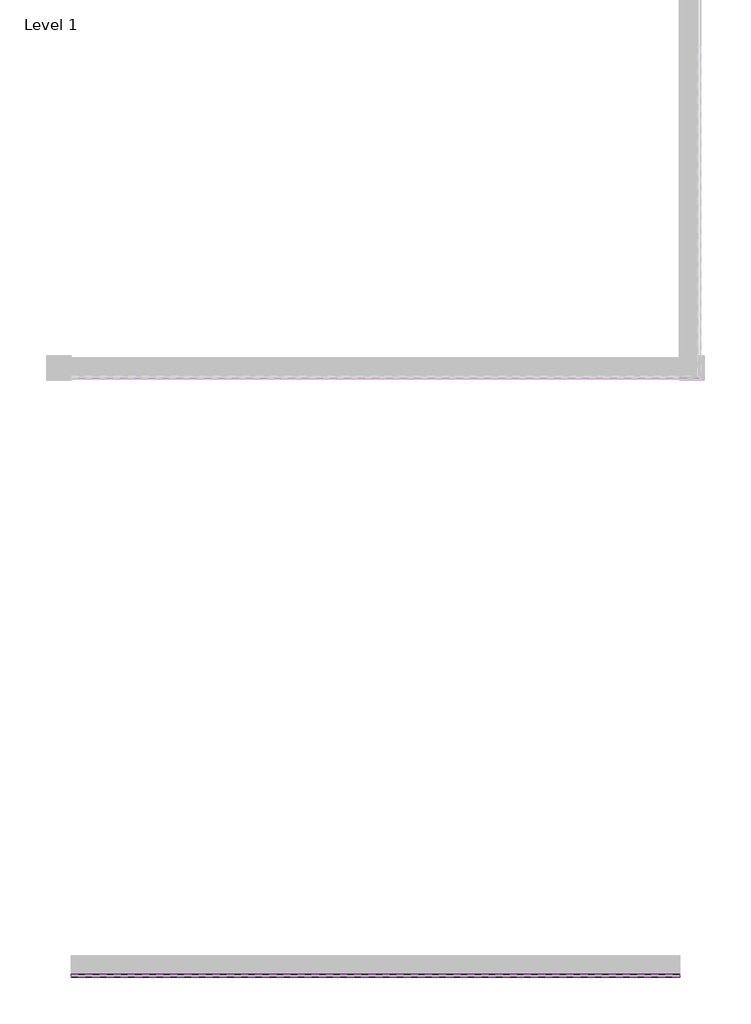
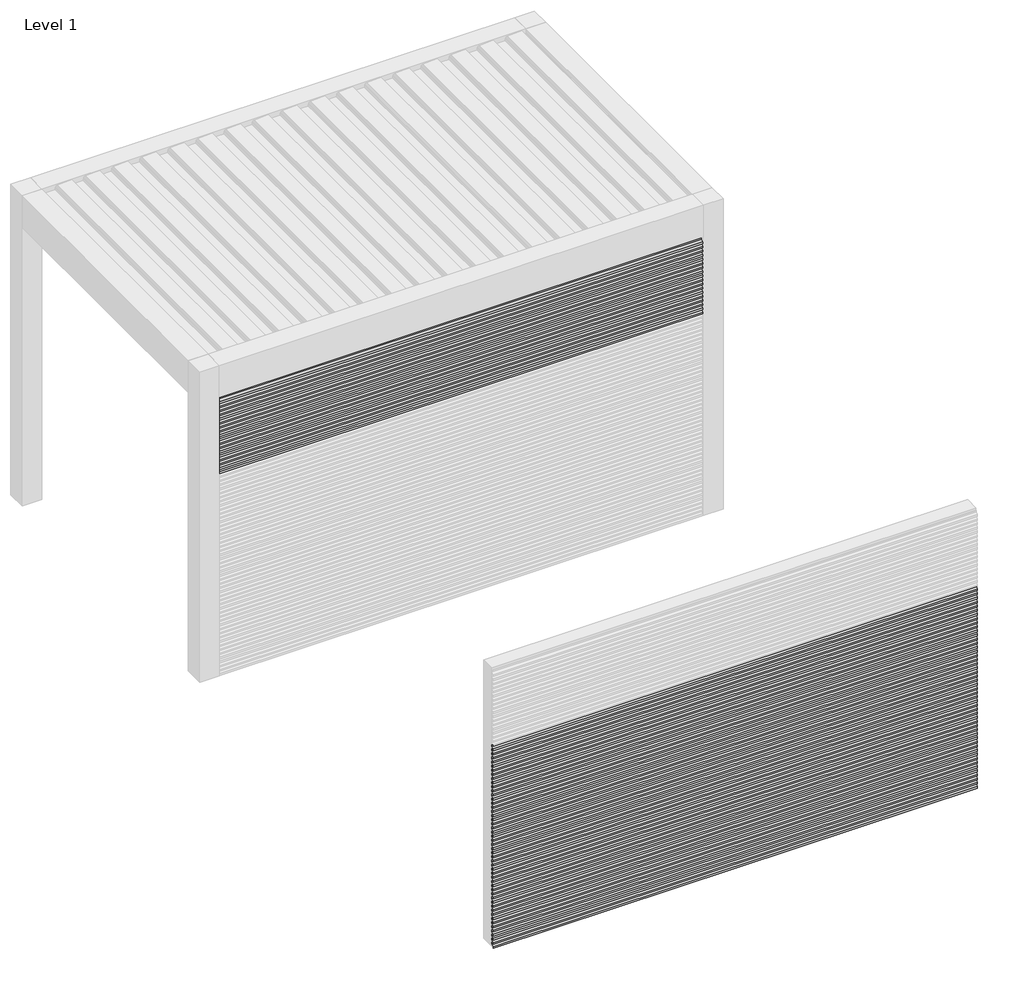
# One storey, part 57 of 69: 67 proxies.
"""IFC4 building model written with IfcOpenShell, lengths in millimetres."""

from ifc_helpers import new_model, si_unit, frame, origin, place, context, project, spatial, polyline, outline, extrude, faceted_brep, element, save

model = new_model("IFC4")

# Units and contexts
model_context = context("Model", 3, world=origin())
ifc_project = project(units=[si_unit("LENGTHUNIT", "METRE", prefix="MILLI")], contexts=[model_context])

# Site, building, storey
site = spatial("IfcSite", under=ifc_project)
building = spatial("IfcBuilding", under=site)
storey = spatial("IfcBuildingStorey", under=building, Name="Level 1", Elevation=0.0)

# Proxies
placement = place(None, origin())
element("IfcBuildingElementProxy", 1, Name="Wall Sweeps", at=placement, inside=storey, context=model_context, shape_type="SweptSolid", body=[
    extrude(outline(polyline([(35894.0955424, 1607.7), (35913.2455424, 1618.7562577), (35913.2455424, 1631.7), (35914.4955424, 1631.7), (35914.4955424, 1618.0345698), (35895.3455424, 1606.9782281), (35895.3455424, 1594.9216933), (35894.0955424, 1594.2), (35894.0955424, 1607.7)])), frame((207125.5749426, 0.0, 0.0), z_axis=(1.0, 0.0, 0.0), x_axis=(0.0, 1.0, 0.0)), (0.0, 0.0, 1.0), 3700.0),
])
element("IfcBuildingElementProxy", 2, Name="Wall Sweeps", at=placement, inside=storey, context=model_context, shape_type="SweptSolid", body=[
    extrude(outline(polyline([(35894.0955424, 1574.4), (35913.2455424, 1585.4562577), (35913.2455424, 1598.4), (35914.4955424, 1598.4), (35914.4955424, 1584.7345698), (35895.3455424, 1573.6782281), (35895.3455424, 1561.6216933), (35894.0955424, 1560.9), (35894.0955424, 1574.4)])), frame((207125.5749426, 0.0, 0.0), z_axis=(1.0, 0.0, 0.0), x_axis=(0.0, 1.0, 0.0)), (0.0, 0.0, 1.0), 3700.0),
])
element("IfcBuildingElementProxy", 3, Name="Wall Sweeps", at=placement, inside=storey, context=model_context, shape_type="SweptSolid", body=[
    extrude(outline(polyline([(35894.0955424, 1541.1), (35913.2455424, 1552.1562577), (35913.2455424, 1565.1), (35914.4955424, 1565.1), (35914.4955424, 1551.4345698), (35895.3455424, 1540.3782281), (35895.3455424, 1528.3216933), (35894.0955424, 1527.6), (35894.0955424, 1541.1)])), frame((207125.5749426, 0.0, 0.0), z_axis=(1.0, 0.0, 0.0), x_axis=(0.0, 1.0, 0.0)), (0.0, 0.0, 1.0), 3700.0),
])
element("IfcBuildingElementProxy", 4, Name="Wall Sweeps", at=placement, inside=storey, context=model_context, shape_type="SweptSolid", body=[
    extrude(outline(polyline([(35894.0955424, 1507.8), (35913.2455424, 1518.8562577), (35913.2455424, 1531.8), (35914.4955424, 1531.8), (35914.4955424, 1518.1345698), (35895.3455424, 1507.0782281), (35895.3455424, 1495.0216933), (35894.0955424, 1494.3), (35894.0955424, 1507.8)])), frame((207125.5749426, 0.0, 0.0), z_axis=(1.0, 0.0, 0.0), x_axis=(0.0, 1.0, 0.0)), (0.0, 0.0, 1.0), 3700.0),
])
element("IfcBuildingElementProxy", 5, Name="Wall Sweeps", at=placement, inside=storey, context=model_context, shape_type="SweptSolid", body=[
    extrude(outline(polyline([(35894.0955424, 1474.5), (35913.2455424, 1485.5562577), (35913.2455424, 1498.5), (35914.4955424, 1498.5), (35914.4955424, 1484.8345698), (35895.3455424, 1473.7782281), (35895.3455424, 1461.7216933), (35894.0955424, 1461.0), (35894.0955424, 1474.5)])), frame((207125.5749426, 0.0, 0.0), z_axis=(1.0, 0.0, 0.0), x_axis=(0.0, 1.0, 0.0)), (0.0, 0.0, 1.0), 3700.0),
])
element("IfcBuildingElementProxy", 6, Name="Wall Sweeps", at=placement, inside=storey, context=model_context, shape_type="SweptSolid", body=[
    extrude(outline(polyline([(35894.0955424, 1441.2), (35913.2455424, 1452.2562577), (35913.2455424, 1465.2), (35914.4955424, 1465.2), (35914.4955424, 1451.5345698), (35895.3455424, 1440.4782281), (35895.3455424, 1428.4216933), (35894.0955424, 1427.7), (35894.0955424, 1441.2)])), frame((207125.5749426, 0.0, 0.0), z_axis=(1.0, 0.0, 0.0), x_axis=(0.0, 1.0, 0.0)), (0.0, 0.0, 1.0), 3700.0),
])
element("IfcBuildingElementProxy", 7, Name="Wall Sweeps", at=placement, inside=storey, context=model_context, shape_type="SweptSolid", body=[
    extrude(outline(polyline([(35894.0955424, 1407.9), (35913.2455424, 1418.9562577), (35913.2455424, 1431.9), (35914.4955424, 1431.9), (35914.4955424, 1418.2345698), (35895.3455424, 1407.1782281), (35895.3455424, 1395.1216933), (35894.0955424, 1394.4), (35894.0955424, 1407.9)])), frame((207125.5749426, 0.0, 0.0), z_axis=(1.0, 0.0, 0.0), x_axis=(0.0, 1.0, 0.0)), (0.0, 0.0, 1.0), 3700.0),
])
element("IfcBuildingElementProxy", 8, Name="Wall Sweeps", at=placement, inside=storey, context=model_context, shape_type="SweptSolid", body=[
    extrude(outline(polyline([(35894.0955424, 1374.6), (35913.2455424, 1385.6562577), (35913.2455424, 1398.6), (35914.4955424, 1398.6), (35914.4955424, 1384.9345698), (35895.3455424, 1373.8782281), (35895.3455424, 1361.8216933), (35894.0955424, 1361.1), (35894.0955424, 1374.6)])), frame((207125.5749426, 0.0, 0.0), z_axis=(1.0, 0.0, 0.0), x_axis=(0.0, 1.0, 0.0)), (0.0, 0.0, 1.0), 3700.0),
])
element("IfcBuildingElementProxy", 9, Name="Wall Sweeps", at=placement, inside=storey, context=model_context, shape_type="SweptSolid", body=[
    extrude(outline(polyline([(35894.0955424, 1341.3), (35913.2455424, 1352.3562577), (35913.2455424, 1365.3), (35914.4955424, 1365.3), (35914.4955424, 1351.6345698), (35895.3455424, 1340.5782281), (35895.3455424, 1328.5216933), (35894.0955424, 1327.8), (35894.0955424, 1341.3)])), frame((207125.5749426, 0.0, 0.0), z_axis=(1.0, 0.0, 0.0), x_axis=(0.0, 1.0, 0.0)), (0.0, 0.0, 1.0), 3700.0),
])
element("IfcBuildingElementProxy", 10, Name="Wall Sweeps", at=placement, inside=storey, context=model_context, shape_type="SweptSolid", body=[
    extrude(outline(polyline([(35894.0955424, 1308.0), (35913.2455424, 1319.0562577), (35913.2455424, 1332.0), (35914.4955424, 1332.0), (35914.4955424, 1318.3345698), (35895.3455424, 1307.2782281), (35895.3455424, 1295.2216933), (35894.0955424, 1294.5), (35894.0955424, 1308.0)])), frame((207125.5749426, 0.0, 0.0), z_axis=(1.0, 0.0, 0.0), x_axis=(0.0, 1.0, 0.0)), (0.0, 0.0, 1.0), 3700.0),
])
element("IfcBuildingElementProxy", 11, Name="Wall Sweeps", at=placement, inside=storey, context=model_context, shape_type="SweptSolid", body=[
    extrude(outline(polyline([(35894.0955424, 1274.7), (35913.2455424, 1285.7562577), (35913.2455424, 1298.7), (35914.4955424, 1298.7), (35914.4955424, 1285.0345698), (35895.3455424, 1273.9782281), (35895.3455424, 1261.9216933), (35894.0955424, 1261.2), (35894.0955424, 1274.7)])), frame((207125.5749426, 0.0, 0.0), z_axis=(1.0, 0.0, 0.0), x_axis=(0.0, 1.0, 0.0)), (0.0, 0.0, 1.0), 3700.0),
])
element("IfcBuildingElementProxy", 12, Name="Wall Sweeps", at=placement, inside=storey, context=model_context, shape_type="SweptSolid", body=[
    extrude(outline(polyline([(35894.0955424, 1241.4), (35913.2455424, 1252.4562577), (35913.2455424, 1265.4), (35914.4955424, 1265.4), (35914.4955424, 1251.7345698), (35895.3455424, 1240.6782281), (35895.3455424, 1228.6216933), (35894.0955424, 1227.9), (35894.0955424, 1241.4)])), frame((207125.5749426, 0.0, 0.0), z_axis=(1.0, 0.0, 0.0), x_axis=(0.0, 1.0, 0.0)), (0.0, 0.0, 1.0), 3700.0),
])
element("IfcBuildingElementProxy", 13, Name="Wall Sweeps", at=placement, inside=storey, context=model_context, shape_type="SweptSolid", body=[
    extrude(outline(polyline([(35894.0955424, 1208.1), (35913.2455424, 1219.1562577), (35913.2455424, 1232.1), (35914.4955424, 1232.1), (35914.4955424, 1218.4345698), (35895.3455424, 1207.3782281), (35895.3455424, 1195.3216933), (35894.0955424, 1194.6), (35894.0955424, 1208.1)])), frame((207125.5749426, 0.0, 0.0), z_axis=(1.0, 0.0, 0.0), x_axis=(0.0, 1.0, 0.0)), (0.0, 0.0, 1.0), 3700.0),
])
element("IfcBuildingElementProxy", 14, Name="Wall Sweeps", at=placement, inside=storey, context=model_context, shape_type="SweptSolid", body=[
    extrude(outline(polyline([(35894.0955424, 1174.8), (35913.2455424, 1185.8562577), (35913.2455424, 1198.8), (35914.4955424, 1198.8), (35914.4955424, 1185.1345698), (35895.3455424, 1174.0782281), (35895.3455424, 1162.0216933), (35894.0955424, 1161.3), (35894.0955424, 1174.8)])), frame((207125.5749426, 0.0, 0.0), z_axis=(1.0, 0.0, 0.0), x_axis=(0.0, 1.0, 0.0)), (0.0, 0.0, 1.0), 3700.0),
])
element("IfcBuildingElementProxy", 15, Name="Wall Sweeps", at=placement, inside=storey, context=model_context, shape_type="SweptSolid", body=[
    extrude(outline(polyline([(35894.0955424, 1141.5), (35913.2455424, 1152.5562577), (35913.2455424, 1165.5), (35914.4955424, 1165.5), (35914.4955424, 1151.8345698), (35895.3455424, 1140.7782281), (35895.3455424, 1128.7216933), (35894.0955424, 1128.0), (35894.0955424, 1141.5)])), frame((207125.5749426, 0.0, 0.0), z_axis=(1.0, 0.0, 0.0), x_axis=(0.0, 1.0, 0.0)), (0.0, 0.0, 1.0), 3700.0),
])
element("IfcBuildingElementProxy", 16, Name="Wall Sweeps", at=placement, inside=storey, context=model_context, shape_type="SweptSolid", body=[
    extrude(outline(polyline([(35894.0955424, 1108.2), (35913.2455424, 1119.2562577), (35913.2455424, 1132.2), (35914.4955424, 1132.2), (35914.4955424, 1118.5345698), (35895.3455424, 1107.4782281), (35895.3455424, 1095.4216933), (35894.0955424, 1094.7), (35894.0955424, 1108.2)])), frame((207125.5749426, 0.0, 0.0), z_axis=(1.0, 0.0, 0.0), x_axis=(0.0, 1.0, 0.0)), (0.0, 0.0, 1.0), 3700.0),
])
element("IfcBuildingElementProxy", 17, Name="Wall Sweeps", at=placement, inside=storey, context=model_context, shape_type="SweptSolid", body=[
    extrude(outline(polyline([(35894.0955424, 1074.9), (35913.2455424, 1085.9562577), (35913.2455424, 1098.9), (35914.4955424, 1098.9), (35914.4955424, 1085.2345698), (35895.3455424, 1074.1782281), (35895.3455424, 1062.1216933), (35894.0955424, 1061.4), (35894.0955424, 1074.9)])), frame((207125.5749426, 0.0, 0.0), z_axis=(1.0, 0.0, 0.0), x_axis=(0.0, 1.0, 0.0)), (0.0, 0.0, 1.0), 3700.0),
])
element("IfcBuildingElementProxy", 18, Name="Wall Sweeps", at=placement, inside=storey, context=model_context, shape_type="SweptSolid", body=[
    extrude(outline(polyline([(35894.0955424, 1041.6), (35913.2455424, 1052.6562577), (35913.2455424, 1065.6), (35914.4955424, 1065.6), (35914.4955424, 1051.9345698), (35895.3455424, 1040.8782281), (35895.3455424, 1028.8216933), (35894.0955424, 1028.1), (35894.0955424, 1041.6)])), frame((207125.5749426, 0.0, 0.0), z_axis=(1.0, 0.0, 0.0), x_axis=(0.0, 1.0, 0.0)), (0.0, 0.0, 1.0), 3700.0),
])
element("IfcBuildingElementProxy", 19, Name="Wall Sweeps", at=placement, inside=storey, context=model_context, shape_type="SweptSolid", body=[
    extrude(outline(polyline([(35894.0955424, 1008.3), (35913.2455424, 1019.3562577), (35913.2455424, 1032.3), (35914.4955424, 1032.3), (35914.4955424, 1018.6345698), (35895.3455424, 1007.5782281), (35895.3455424, 995.5216933), (35894.0955424, 994.8), (35894.0955424, 1008.3)])), frame((207125.5749426, 0.0, 0.0), z_axis=(1.0, 0.0, 0.0), x_axis=(0.0, 1.0, 0.0)), (0.0, 0.0, 1.0), 3700.0),
])
element("IfcBuildingElementProxy", 20, Name="Wall Sweeps", at=placement, inside=storey, context=model_context, shape_type="SweptSolid", body=[
    extrude(outline(polyline([(35894.0955424, 975.0), (35913.2455424, 986.0562577), (35913.2455424, 999.0), (35914.4955424, 999.0), (35914.4955424, 985.3345698), (35895.3455424, 974.2782281), (35895.3455424, 962.2216933), (35894.0955424, 961.5), (35894.0955424, 975.0)])), frame((207125.5749426, 0.0, 0.0), z_axis=(1.0, 0.0, 0.0), x_axis=(0.0, 1.0, 0.0)), (0.0, 0.0, 1.0), 3700.0),
])
element("IfcBuildingElementProxy", 21, Name="Wall Sweeps", at=placement, inside=storey, context=model_context, shape_type="SweptSolid", body=[
    extrude(outline(polyline([(35894.0955424, 941.7), (35913.2455424, 952.7562577), (35913.2455424, 965.7), (35914.4955424, 965.7), (35914.4955424, 952.0345698), (35895.3455424, 940.9782281), (35895.3455424, 928.9216933), (35894.0955424, 928.2), (35894.0955424, 941.7)])), frame((207125.5749426, 0.0, 0.0), z_axis=(1.0, 0.0, 0.0), x_axis=(0.0, 1.0, 0.0)), (0.0, 0.0, 1.0), 3700.0),
])
element("IfcBuildingElementProxy", 22, Name="Wall Sweeps", at=placement, inside=storey, context=model_context, shape_type="SweptSolid", body=[
    extrude(outline(polyline([(35894.0955424, 908.4), (35913.2455424, 919.4562577), (35913.2455424, 932.4), (35914.4955424, 932.4), (35914.4955424, 918.7345698), (35895.3455424, 907.6782281), (35895.3455424, 895.6216933), (35894.0955424, 894.9), (35894.0955424, 908.4)])), frame((207125.5749426, 0.0, 0.0), z_axis=(1.0, 0.0, 0.0), x_axis=(0.0, 1.0, 0.0)), (0.0, 0.0, 1.0), 3700.0),
])
element("IfcBuildingElementProxy", 23, Name="Wall Sweeps", at=placement, inside=storey, context=model_context, shape_type="SweptSolid", body=[
    extrude(outline(polyline([(35894.0955424, 875.1), (35913.2455424, 886.1562577), (35913.2455424, 899.1), (35914.4955424, 899.1), (35914.4955424, 885.4345698), (35895.3455424, 874.3782281), (35895.3455424, 862.3216933), (35894.0955424, 861.6), (35894.0955424, 875.1)])), frame((207125.5749426, 0.0, 0.0), z_axis=(1.0, 0.0, 0.0), x_axis=(0.0, 1.0, 0.0)), (0.0, 0.0, 1.0), 3700.0),
])
element("IfcBuildingElementProxy", 24, Name="Wall Sweeps", at=placement, inside=storey, context=model_context, shape_type="SweptSolid", body=[
    extrude(outline(polyline([(35894.0955424, 841.8), (35913.2455424, 852.8562577), (35913.2455424, 865.8), (35914.4955424, 865.8), (35914.4955424, 852.1345698), (35895.3455424, 841.0782281), (35895.3455424, 829.0216933), (35894.0955424, 828.3), (35894.0955424, 841.8)])), frame((207125.5749426, 0.0, 0.0), z_axis=(1.0, 0.0, 0.0), x_axis=(0.0, 1.0, 0.0)), (0.0, 0.0, 1.0), 3700.0),
])
element("IfcBuildingElementProxy", 25, Name="Wall Sweeps", at=placement, inside=storey, context=model_context, shape_type="SweptSolid", body=[
    extrude(outline(polyline([(35894.0955424, 808.5), (35913.2455424, 819.5562577), (35913.2455424, 832.5), (35914.4955424, 832.5), (35914.4955424, 818.8345698), (35895.3455424, 807.7782281), (35895.3455424, 795.7216933), (35894.0955424, 795.0), (35894.0955424, 808.5)])), frame((207125.5749426, 0.0, 0.0), z_axis=(1.0, 0.0, 0.0), x_axis=(0.0, 1.0, 0.0)), (0.0, 0.0, 1.0), 3700.0),
])
element("IfcBuildingElementProxy", 26, Name="Wall Sweeps", at=placement, inside=storey, context=model_context, shape_type="SweptSolid", body=[
    extrude(outline(polyline([(35894.0955424, 775.2), (35913.2455424, 786.2562577), (35913.2455424, 799.2), (35914.4955424, 799.2), (35914.4955424, 785.5345698), (35895.3455424, 774.4782281), (35895.3455424, 762.4216933), (35894.0955424, 761.7), (35894.0955424, 775.2)])), frame((207125.5749426, 0.0, 0.0), z_axis=(1.0, 0.0, 0.0), x_axis=(0.0, 1.0, 0.0)), (0.0, 0.0, 1.0), 3700.0),
])
element("IfcBuildingElementProxy", 27, Name="Wall Sweeps", at=placement, inside=storey, context=model_context, shape_type="SweptSolid", body=[
    extrude(outline(polyline([(35894.0955424, 741.9), (35913.2455424, 752.9562577), (35913.2455424, 765.9), (35914.4955424, 765.9), (35914.4955424, 752.2345698), (35895.3455424, 741.1782281), (35895.3455424, 729.1216933), (35894.0955424, 728.4), (35894.0955424, 741.9)])), frame((207125.5749426, 0.0, 0.0), z_axis=(1.0, 0.0, 0.0), x_axis=(0.0, 1.0, 0.0)), (0.0, 0.0, 1.0), 3700.0),
])
element("IfcBuildingElementProxy", 28, Name="Wall Sweeps", at=placement, inside=storey, context=model_context, shape_type="SweptSolid", body=[
    extrude(outline(polyline([(35894.0955424, 708.6), (35913.2455424, 719.6562577), (35913.2455424, 732.6), (35914.4955424, 732.6), (35914.4955424, 718.9345698), (35895.3455424, 707.8782281), (35895.3455424, 695.8216933), (35894.0955424, 695.1), (35894.0955424, 708.6)])), frame((207125.5749426, 0.0, 0.0), z_axis=(1.0, 0.0, 0.0), x_axis=(0.0, 1.0, 0.0)), (0.0, 0.0, 1.0), 3700.0),
])
element("IfcBuildingElementProxy", 29, Name="Wall Sweeps", at=placement, inside=storey, context=model_context, shape_type="SweptSolid", body=[
    extrude(outline(polyline([(35894.0955424, 675.3), (35913.2455424, 686.3562577), (35913.2455424, 699.3), (35914.4955424, 699.3), (35914.4955424, 685.6345698), (35895.3455424, 674.5782281), (35895.3455424, 662.5216933), (35894.0955424, 661.8), (35894.0955424, 675.3)])), frame((207125.5749426, 0.0, 0.0), z_axis=(1.0, 0.0, 0.0), x_axis=(0.0, 1.0, 0.0)), (0.0, 0.0, 1.0), 3700.0),
])
element("IfcBuildingElementProxy", 30, Name="Wall Sweeps", at=placement, inside=storey, context=model_context, shape_type="SweptSolid", body=[
    extrude(outline(polyline([(35894.0955424, 642.0), (35913.2455424, 653.0562577), (35913.2455424, 666.0), (35914.4955424, 666.0), (35914.4955424, 652.3345698), (35895.3455424, 641.2782281), (35895.3455424, 629.2216933), (35894.0955424, 628.5), (35894.0955424, 642.0)])), frame((207125.5749426, 0.0, 0.0), z_axis=(1.0, 0.0, 0.0), x_axis=(0.0, 1.0, 0.0)), (0.0, 0.0, 1.0), 3700.0),
])
element("IfcBuildingElementProxy", 31, Name="Wall Sweeps", at=placement, inside=storey, context=model_context, shape_type="SweptSolid", body=[
    extrude(outline(polyline([(35894.0955424, 608.7), (35913.2455424, 619.7562577), (35913.2455424, 632.7), (35914.4955424, 632.7), (35914.4955424, 619.0345698), (35895.3455424, 607.9782281), (35895.3455424, 595.9216933), (35894.0955424, 595.2), (35894.0955424, 608.7)])), frame((207125.5749426, 0.0, 0.0), z_axis=(1.0, 0.0, 0.0), x_axis=(0.0, 1.0, 0.0)), (0.0, 0.0, 1.0), 3700.0),
])
element("IfcBuildingElementProxy", 32, Name="Wall Sweeps", at=placement, inside=storey, context=model_context, shape_type="SweptSolid", body=[
    extrude(outline(polyline([(35894.0955424, 575.4), (35913.2455424, 586.4562577), (35913.2455424, 599.4), (35914.4955424, 599.4), (35914.4955424, 585.7345698), (35895.3455424, 574.6782281), (35895.3455424, 562.6216933), (35894.0955424, 561.9), (35894.0955424, 575.4)])), frame((207125.5749426, 0.0, 0.0), z_axis=(1.0, 0.0, 0.0), x_axis=(0.0, 1.0, 0.0)), (0.0, 0.0, 1.0), 3700.0),
])
element("IfcBuildingElementProxy", 33, Name="Wall Sweeps", at=placement, inside=storey, context=model_context, shape_type="SweptSolid", body=[
    extrude(outline(polyline([(35894.0955424, 542.1), (35913.2455424, 553.1562577), (35913.2455424, 566.1), (35914.4955424, 566.1), (35914.4955424, 552.4345698), (35895.3455424, 541.3782281), (35895.3455424, 529.3216933), (35894.0955424, 528.6), (35894.0955424, 542.1)])), frame((207125.5749426, 0.0, 0.0), z_axis=(1.0, 0.0, 0.0), x_axis=(0.0, 1.0, 0.0)), (0.0, 0.0, 1.0), 3700.0),
])
element("IfcBuildingElementProxy", 34, Name="Wall Sweeps", at=placement, inside=storey, context=model_context, shape_type="SweptSolid", body=[
    extrude(outline(polyline([(35894.0955424, 508.8), (35913.2455424, 519.8562577), (35913.2455424, 532.8), (35914.4955424, 532.8), (35914.4955424, 519.1345698), (35895.3455424, 508.0782281), (35895.3455424, 496.0216933), (35894.0955424, 495.3), (35894.0955424, 508.8)])), frame((207125.5749426, 0.0, 0.0), z_axis=(1.0, 0.0, 0.0), x_axis=(0.0, 1.0, 0.0)), (0.0, 0.0, 1.0), 3700.0),
])
element("IfcBuildingElementProxy", 35, Name="Wall Sweeps", at=placement, inside=storey, context=model_context, shape_type="SweptSolid", body=[
    extrude(outline(polyline([(35894.0955424, 475.5), (35913.2455424, 486.5562577), (35913.2455424, 499.5), (35914.4955424, 499.5), (35914.4955424, 485.8345698), (35895.3455424, 474.7782281), (35895.3455424, 462.7216933), (35894.0955424, 462.0), (35894.0955424, 475.5)])), frame((207125.5749426, 0.0, 0.0), z_axis=(1.0, 0.0, 0.0), x_axis=(0.0, 1.0, 0.0)), (0.0, 0.0, 1.0), 3700.0),
])
element("IfcBuildingElementProxy", 36, Name="Wall Sweeps", at=placement, inside=storey, context=model_context, shape_type="SweptSolid", body=[
    extrude(outline(polyline([(35894.0955424, 442.2), (35913.2455424, 453.2562577), (35913.2455424, 466.2), (35914.4955424, 466.2), (35914.4955424, 452.5345698), (35895.3455424, 441.4782281), (35895.3455424, 429.4216933), (35894.0955424, 428.7), (35894.0955424, 442.2)])), frame((207125.5749426, 0.0, 0.0), z_axis=(1.0, 0.0, 0.0), x_axis=(0.0, 1.0, 0.0)), (0.0, 0.0, 1.0), 3700.0),
])
element("IfcBuildingElementProxy", 37, Name="Wall Sweeps", at=placement, inside=storey, context=model_context, shape_type="SweptSolid", body=[
    extrude(outline(polyline([(35894.0955424, 408.9), (35913.2455424, 419.9562577), (35913.2455424, 432.9), (35914.4955424, 432.9), (35914.4955424, 419.2345698), (35895.3455424, 408.1782281), (35895.3455424, 396.1216933), (35894.0955424, 395.4), (35894.0955424, 408.9)])), frame((207125.5749426, 0.0, 0.0), z_axis=(1.0, 0.0, 0.0), x_axis=(0.0, 1.0, 0.0)), (0.0, 0.0, 1.0), 3700.0),
])
element("IfcBuildingElementProxy", 38, Name="Wall Sweeps", at=placement, inside=storey, context=model_context, shape_type="SweptSolid", body=[
    extrude(outline(polyline([(35894.0955424, 375.6), (35913.2455424, 386.6562577), (35913.2455424, 399.6), (35914.4955424, 399.6), (35914.4955424, 385.9345698), (35895.3455424, 374.8782281), (35895.3455424, 362.8216933), (35894.0955424, 362.1), (35894.0955424, 375.6)])), frame((207125.5749426, 0.0, 0.0), z_axis=(1.0, 0.0, 0.0), x_axis=(0.0, 1.0, 0.0)), (0.0, 0.0, 1.0), 3700.0),
])
element("IfcBuildingElementProxy", 39, Name="Wall Sweeps", at=placement, inside=storey, context=model_context, shape_type="SweptSolid", body=[
    extrude(outline(polyline([(35894.0955424, 342.3), (35913.2455424, 353.3562577), (35913.2455424, 366.3), (35914.4955424, 366.3), (35914.4955424, 352.6345698), (35895.3455424, 341.5782281), (35895.3455424, 329.5216933), (35894.0955424, 328.8), (35894.0955424, 342.3)])), frame((207125.5749426, 0.0, 0.0), z_axis=(1.0, 0.0, 0.0), x_axis=(0.0, 1.0, 0.0)), (0.0, 0.0, 1.0), 3700.0),
])
element("IfcBuildingElementProxy", 40, Name="Wall Sweeps", at=placement, inside=storey, context=model_context, shape_type="SweptSolid", body=[
    extrude(outline(polyline([(35894.0955424, 309.0), (35913.2455424, 320.0562577), (35913.2455424, 333.0), (35914.4955424, 333.0), (35914.4955424, 319.3345698), (35895.3455424, 308.2782281), (35895.3455424, 296.2216933), (35894.0955424, 295.5), (35894.0955424, 309.0)])), frame((207125.5749426, 0.0, 0.0), z_axis=(1.0, 0.0, 0.0), x_axis=(0.0, 1.0, 0.0)), (0.0, 0.0, 1.0), 3700.0),
])
element("IfcBuildingElementProxy", 41, Name="Wall Sweeps", at=placement, inside=storey, context=model_context, shape_type="SweptSolid", body=[
    extrude(outline(polyline([(35894.0955424, 275.7), (35913.2455424, 286.7562577), (35913.2455424, 299.7), (35914.4955424, 299.7), (35914.4955424, 286.0345698), (35895.3455424, 274.9782281), (35895.3455424, 262.9216933), (35894.0955424, 262.2), (35894.0955424, 275.7)])), frame((207125.5749426, 0.0, 0.0), z_axis=(1.0, 0.0, 0.0), x_axis=(0.0, 1.0, 0.0)), (0.0, 0.0, 1.0), 3700.0),
])
element("IfcBuildingElementProxy", 42, Name="Wall Sweeps", at=placement, inside=storey, context=model_context, shape_type="SweptSolid", body=[
    extrude(outline(polyline([(35894.0955424, 242.4), (35913.2455424, 253.4562577), (35913.2455424, 266.4), (35914.4955424, 266.4), (35914.4955424, 252.7345698), (35895.3455424, 241.6782281), (35895.3455424, 229.6216933), (35894.0955424, 228.9), (35894.0955424, 242.4)])), frame((207125.5749426, 0.0, 0.0), z_axis=(1.0, 0.0, 0.0), x_axis=(0.0, 1.0, 0.0)), (0.0, 0.0, 1.0), 3700.0),
])
element("IfcBuildingElementProxy", 43, Name="Wall Sweeps", at=placement, inside=storey, context=model_context, shape_type="SweptSolid", body=[
    extrude(outline(polyline([(35894.0955424, 209.1), (35913.2455424, 220.1562577), (35913.2455424, 233.1), (35914.4955424, 233.1), (35914.4955424, 219.4345698), (35895.3455424, 208.3782281), (35895.3455424, 196.3216933), (35894.0955424, 195.6), (35894.0955424, 209.1)])), frame((207125.5749426, 0.0, 0.0), z_axis=(1.0, 0.0, 0.0), x_axis=(0.0, 1.0, 0.0)), (0.0, 0.0, 1.0), 3700.0),
])
element("IfcBuildingElementProxy", 44, Name="Wall Sweeps", at=placement, inside=storey, context=model_context, shape_type="SweptSolid", body=[
    extrude(outline(polyline([(35894.0955424, 175.8), (35913.2455424, 186.8562577), (35913.2455424, 199.8), (35914.4955424, 199.8), (35914.4955424, 186.1345698), (35895.3455424, 175.0782281), (35895.3455424, 163.0216933), (35894.0955424, 162.3), (35894.0955424, 175.8)])), frame((207125.5749426, 0.0, 0.0), z_axis=(1.0, 0.0, 0.0), x_axis=(0.0, 1.0, 0.0)), (0.0, 0.0, 1.0), 3700.0),
])
element("IfcBuildingElementProxy", 45, Name="Wall Sweeps", at=placement, inside=storey, context=model_context, shape_type="SweptSolid", body=[
    extrude(outline(polyline([(35894.0955424, 142.5), (35913.2455424, 153.5562577), (35913.2455424, 166.5), (35914.4955424, 166.5), (35914.4955424, 152.8345698), (35895.3455424, 141.7782281), (35895.3455424, 129.7216933), (35894.0955424, 129.0), (35894.0955424, 142.5)])), frame((207125.5749426, 0.0, 0.0), z_axis=(1.0, 0.0, 0.0), x_axis=(0.0, 1.0, 0.0)), (0.0, 0.0, 1.0), 3700.0),
])
element("IfcBuildingElementProxy", 46, Name="Wall Sweeps", at=placement, inside=storey, context=model_context, shape_type="SweptSolid", body=[
    extrude(outline(polyline([(35894.0955424, 109.2), (35913.2455424, 120.2562577), (35913.2455424, 133.2), (35914.4955424, 133.2), (35914.4955424, 119.5345698), (35895.3455424, 108.4782281), (35895.3455424, 96.4216933), (35894.0955424, 95.7), (35894.0955424, 109.2)])), frame((207125.5749426, 0.0, 0.0), z_axis=(1.0, 0.0, 0.0), x_axis=(0.0, 1.0, 0.0)), (0.0, 0.0, 1.0), 3700.0),
])
element("IfcBuildingElementProxy", 47, Name="Wall Sweeps", at=placement, inside=storey, context=model_context, shape_type="SweptSolid", body=[
    extrude(outline(polyline([(35894.0955424, 75.9), (35913.2455424, 86.9562577), (35913.2455424, 99.9), (35914.4955424, 99.9), (35914.4955424, 86.2345698), (35895.3455424, 75.1782281), (35895.3455424, 63.1216933), (35894.0955424, 62.4), (35894.0955424, 75.9)])), frame((207125.5749426, 0.0, 0.0), z_axis=(1.0, 0.0, 0.0), x_axis=(0.0, 1.0, 0.0)), (0.0, 0.0, 1.0), 3700.0),
])
element("IfcBuildingElementProxy", 48, Name="Wall Sweeps", at=placement, inside=storey, context=model_context, shape_type="SweptSolid", body=[
    extrude(outline(polyline([(35894.0955424, 42.6), (35913.2455424, 53.6562577), (35913.2455424, 66.6), (35914.4955424, 66.6), (35914.4955424, 52.9345698), (35895.3455424, 41.8782281), (35895.3455424, 29.8216933), (35894.0955424, 29.1), (35894.0955424, 42.6)])), frame((207125.5749426, 0.0, 0.0), z_axis=(1.0, 0.0, 0.0), x_axis=(0.0, 1.0, 0.0)), (0.0, 0.0, 1.0), 3700.0),
])
element("IfcBuildingElementProxy", 49, Name="Wall Sweeps", at=placement, inside=storey, context=model_context, shape_type="SweptSolid", body=[
    extrude(outline(polyline([(35894.0955424, 9.3), (35913.2455424, 20.3562577), (35913.2455424, 33.3), (35914.4955424, 33.3), (35914.4955424, 19.6345698), (35895.3455424, 8.5782281), (35895.3455424, -3.4783067), (35894.0955424, -4.2), (35894.0955424, 9.3)])), frame((207125.5749426, 0.0, 0.0), z_axis=(1.0, 0.0, 0.0), x_axis=(0.0, 1.0, 0.0)), (0.0, 0.0, 1.0), 3700.0),
])
element("IfcBuildingElementProxy", 50, Name="Wall Sweeps", at=placement, inside=storey, context=model_context, shape_type="Brep", body=[
    faceted_brep([(210955.4900207, 39530.7593685, 2207.1), (210955.4900207, 39530.7593685, 2193.6), (210954.2400207, 39532.0093685, 2194.3216933), (210954.2400207, 39532.0093685, 2206.3782281), (210935.0900207, 39551.1593685, 2217.4345698), (210935.0900207, 39551.1593685, 2231.1), (210936.3400207, 39549.9093685, 2231.1), (210936.3400207, 39549.9093685, 2218.1562577), (207125.5749426, 39530.7593685, 2207.1), (207125.5749426, 39549.9093685, 2218.1562577), (207125.5749426, 39549.9093685, 2231.1), (207125.5749426, 39551.1593685, 2231.1), (207125.5749426, 39551.1593685, 2217.4345698), (207125.5749426, 39532.0093685, 2206.3782281), (207125.5749426, 39532.0093685, 2194.3216933), (207125.5749426, 39530.7593685, 2193.6)], [[[0, 1, 2, 3, 4, 5, 6, 7]], [[8, 9, 10, 11, 12, 13, 14, 15]], [[0, 7, 9, 8]], [[7, 6, 10, 9]], [[6, 5, 11, 10]], [[5, 4, 12, 11]], [[4, 3, 13, 12]], [[3, 2, 14, 13]], [[2, 1, 15, 14]], [[1, 0, 8, 15]]]),
])
element("IfcBuildingElementProxy", 51, Name="Wall Sweeps", at=placement, inside=storey, context=model_context, shape_type="Brep", body=[
    faceted_brep([(210955.4900207, 39530.7593685, 2173.8), (210955.4900207, 39530.7593685, 2160.3), (210954.2400207, 39532.0093685, 2161.0216933), (210954.2400207, 39532.0093685, 2173.0782281), (210935.0900207, 39551.1593685, 2184.1345698), (210935.0900207, 39551.1593685, 2197.8), (210936.3400207, 39549.9093685, 2197.8), (210936.3400207, 39549.9093685, 2184.8562577), (207125.5749426, 39530.7593685, 2173.8), (207125.5749426, 39549.9093685, 2184.8562577), (207125.5749426, 39549.9093685, 2197.8), (207125.5749426, 39551.1593685, 2197.8), (207125.5749426, 39551.1593685, 2184.1345698), (207125.5749426, 39532.0093685, 2173.0782281), (207125.5749426, 39532.0093685, 2161.0216933), (207125.5749426, 39530.7593685, 2160.3)], [[[0, 1, 2, 3, 4, 5, 6, 7]], [[8, 9, 10, 11, 12, 13, 14, 15]], [[0, 7, 9, 8]], [[7, 6, 10, 9]], [[6, 5, 11, 10]], [[5, 4, 12, 11]], [[4, 3, 13, 12]], [[3, 2, 14, 13]], [[2, 1, 15, 14]], [[1, 0, 8, 15]]]),
])
element("IfcBuildingElementProxy", 52, Name="Wall Sweeps", at=placement, inside=storey, context=model_context, shape_type="Brep", body=[
    faceted_brep([(210955.4900207, 39530.7593685, 2140.5), (210955.4900207, 39530.7593685, 2127.0), (210954.2400207, 39532.0093685, 2127.7216933), (210954.2400207, 39532.0093685, 2139.7782281), (210935.0900207, 39551.1593685, 2150.8345698), (210935.0900207, 39551.1593685, 2164.5), (210936.3400207, 39549.9093685, 2164.5), (210936.3400207, 39549.9093685, 2151.5562577), (207125.5749426, 39530.7593685, 2140.5), (207125.5749426, 39549.9093685, 2151.5562577), (207125.5749426, 39549.9093685, 2164.5), (207125.5749426, 39551.1593685, 2164.5), (207125.5749426, 39551.1593685, 2150.8345698), (207125.5749426, 39532.0093685, 2139.7782281), (207125.5749426, 39532.0093685, 2127.7216933), (207125.5749426, 39530.7593685, 2127.0)], [[[0, 1, 2, 3, 4, 5, 6, 7]], [[8, 9, 10, 11, 12, 13, 14, 15]], [[0, 7, 9, 8]], [[7, 6, 10, 9]], [[6, 5, 11, 10]], [[5, 4, 12, 11]], [[4, 3, 13, 12]], [[3, 2, 14, 13]], [[2, 1, 15, 14]], [[1, 0, 8, 15]]]),
])
element("IfcBuildingElementProxy", 53, Name="Wall Sweeps", at=placement, inside=storey, context=model_context, shape_type="Brep", body=[
    faceted_brep([(210955.4900207, 39530.7593685, 2107.2), (210955.4900207, 39530.7593685, 2093.7), (210954.2400207, 39532.0093685, 2094.4216933), (210954.2400207, 39532.0093685, 2106.4782281), (210935.0900207, 39551.1593685, 2117.5345698), (210935.0900207, 39551.1593685, 2131.2), (210936.3400207, 39549.9093685, 2131.2), (210936.3400207, 39549.9093685, 2118.2562577), (207125.5749426, 39530.7593685, 2107.2), (207125.5749426, 39549.9093685, 2118.2562577), (207125.5749426, 39549.9093685, 2131.2), (207125.5749426, 39551.1593685, 2131.2), (207125.5749426, 39551.1593685, 2117.5345698), (207125.5749426, 39532.0093685, 2106.4782281), (207125.5749426, 39532.0093685, 2094.4216933), (207125.5749426, 39530.7593685, 2093.7)], [[[0, 1, 2, 3, 4, 5, 6, 7]], [[8, 9, 10, 11, 12, 13, 14, 15]], [[0, 7, 9, 8]], [[7, 6, 10, 9]], [[6, 5, 11, 10]], [[5, 4, 12, 11]], [[4, 3, 13, 12]], [[3, 2, 14, 13]], [[2, 1, 15, 14]], [[1, 0, 8, 15]]]),
])
element("IfcBuildingElementProxy", 54, Name="Wall Sweeps", at=placement, inside=storey, context=model_context, shape_type="Brep", body=[
    faceted_brep([(210955.4900207, 39530.7593685, 2073.9), (210955.4900207, 39530.7593685, 2060.4), (210954.2400207, 39532.0093685, 2061.1216933), (210954.2400207, 39532.0093685, 2073.1782281), (210935.0900207, 39551.1593685, 2084.2345698), (210935.0900207, 39551.1593685, 2097.9), (210936.3400207, 39549.9093685, 2097.9), (210936.3400207, 39549.9093685, 2084.9562577), (207125.5749426, 39530.7593685, 2073.9), (207125.5749426, 39549.9093685, 2084.9562577), (207125.5749426, 39549.9093685, 2097.9), (207125.5749426, 39551.1593685, 2097.9), (207125.5749426, 39551.1593685, 2084.2345698), (207125.5749426, 39532.0093685, 2073.1782281), (207125.5749426, 39532.0093685, 2061.1216933), (207125.5749426, 39530.7593685, 2060.4)], [[[0, 1, 2, 3, 4, 5, 6, 7]], [[8, 9, 10, 11, 12, 13, 14, 15]], [[0, 7, 9, 8]], [[7, 6, 10, 9]], [[6, 5, 11, 10]], [[5, 4, 12, 11]], [[4, 3, 13, 12]], [[3, 2, 14, 13]], [[2, 1, 15, 14]], [[1, 0, 8, 15]]]),
])
element("IfcBuildingElementProxy", 55, Name="Wall Sweeps", at=placement, inside=storey, context=model_context, shape_type="Brep", body=[
    faceted_brep([(210955.4900207, 39530.7593685, 2040.6), (210955.4900207, 39530.7593685, 2027.1), (210954.2400207, 39532.0093685, 2027.8216933), (210954.2400207, 39532.0093685, 2039.8782281), (210935.0900207, 39551.1593685, 2050.9345698), (210935.0900207, 39551.1593685, 2064.6), (210936.3400207, 39549.9093685, 2064.6), (210936.3400207, 39549.9093685, 2051.6562577), (207125.5749426, 39530.7593685, 2040.6), (207125.5749426, 39549.9093685, 2051.6562577), (207125.5749426, 39549.9093685, 2064.6), (207125.5749426, 39551.1593685, 2064.6), (207125.5749426, 39551.1593685, 2050.9345698), (207125.5749426, 39532.0093685, 2039.8782281), (207125.5749426, 39532.0093685, 2027.8216933), (207125.5749426, 39530.7593685, 2027.1)], [[[0, 1, 2, 3, 4, 5, 6, 7]], [[8, 9, 10, 11, 12, 13, 14, 15]], [[0, 7, 9, 8]], [[7, 6, 10, 9]], [[6, 5, 11, 10]], [[5, 4, 12, 11]], [[4, 3, 13, 12]], [[3, 2, 14, 13]], [[2, 1, 15, 14]], [[1, 0, 8, 15]]]),
])
element("IfcBuildingElementProxy", 56, Name="Wall Sweeps", at=placement, inside=storey, context=model_context, shape_type="Brep", body=[
    faceted_brep([(210955.4900207, 39530.7593685, 2007.3), (210955.4900207, 39530.7593685, 1993.8), (210954.2400207, 39532.0093685, 1994.5216933), (210954.2400207, 39532.0093685, 2006.5782281), (210935.0900207, 39551.1593685, 2017.6345698), (210935.0900207, 39551.1593685, 2031.3), (210936.3400207, 39549.9093685, 2031.3), (210936.3400207, 39549.9093685, 2018.3562577), (207125.5749426, 39530.7593685, 2007.3), (207125.5749426, 39549.9093685, 2018.3562577), (207125.5749426, 39549.9093685, 2031.3), (207125.5749426, 39551.1593685, 2031.3), (207125.5749426, 39551.1593685, 2017.6345698), (207125.5749426, 39532.0093685, 2006.5782281), (207125.5749426, 39532.0093685, 1994.5216933), (207125.5749426, 39530.7593685, 1993.8)], [[[0, 1, 2, 3, 4, 5, 6, 7]], [[8, 9, 10, 11, 12, 13, 14, 15]], [[0, 7, 9, 8]], [[7, 6, 10, 9]], [[6, 5, 11, 10]], [[5, 4, 12, 11]], [[4, 3, 13, 12]], [[3, 2, 14, 13]], [[2, 1, 15, 14]], [[1, 0, 8, 15]]]),
])
element("IfcBuildingElementProxy", 57, Name="Wall Sweeps", at=placement, inside=storey, context=model_context, shape_type="Brep", body=[
    faceted_brep([(210955.4900207, 39530.7593685, 1974.0), (210955.4900207, 39530.7593685, 1960.5), (210954.2400207, 39532.0093685, 1961.2216933), (210954.2400207, 39532.0093685, 1973.2782281), (210935.0900207, 39551.1593685, 1984.3345698), (210935.0900207, 39551.1593685, 1998.0), (210936.3400207, 39549.9093685, 1998.0), (210936.3400207, 39549.9093685, 1985.0562577), (207125.5749426, 39530.7593685, 1974.0), (207125.5749426, 39549.9093685, 1985.0562577), (207125.5749426, 39549.9093685, 1998.0), (207125.5749426, 39551.1593685, 1998.0), (207125.5749426, 39551.1593685, 1984.3345698), (207125.5749426, 39532.0093685, 1973.2782281), (207125.5749426, 39532.0093685, 1961.2216933), (207125.5749426, 39530.7593685, 1960.5)], [[[0, 1, 2, 3, 4, 5, 6, 7]], [[8, 9, 10, 11, 12, 13, 14, 15]], [[0, 7, 9, 8]], [[7, 6, 10, 9]], [[6, 5, 11, 10]], [[5, 4, 12, 11]], [[4, 3, 13, 12]], [[3, 2, 14, 13]], [[2, 1, 15, 14]], [[1, 0, 8, 15]]]),
])
element("IfcBuildingElementProxy", 58, Name="Wall Sweeps", at=placement, inside=storey, context=model_context, shape_type="Brep", body=[
    faceted_brep([(210955.4900207, 39530.7593685, 1940.7), (210955.4900207, 39530.7593685, 1927.2), (210954.2400207, 39532.0093685, 1927.9216933), (210954.2400207, 39532.0093685, 1939.9782281), (210935.0900207, 39551.1593685, 1951.0345698), (210935.0900207, 39551.1593685, 1964.7), (210936.3400207, 39549.9093685, 1964.7), (210936.3400207, 39549.9093685, 1951.7562577), (207125.5749426, 39530.7593685, 1940.7), (207125.5749426, 39549.9093685, 1951.7562577), (207125.5749426, 39549.9093685, 1964.7), (207125.5749426, 39551.1593685, 1964.7), (207125.5749426, 39551.1593685, 1951.0345698), (207125.5749426, 39532.0093685, 1939.9782281), (207125.5749426, 39532.0093685, 1927.9216933), (207125.5749426, 39530.7593685, 1927.2)], [[[0, 1, 2, 3, 4, 5, 6, 7]], [[8, 9, 10, 11, 12, 13, 14, 15]], [[0, 7, 9, 8]], [[7, 6, 10, 9]], [[6, 5, 11, 10]], [[5, 4, 12, 11]], [[4, 3, 13, 12]], [[3, 2, 14, 13]], [[2, 1, 15, 14]], [[1, 0, 8, 15]]]),
])
element("IfcBuildingElementProxy", 59, Name="Wall Sweeps", at=placement, inside=storey, context=model_context, shape_type="Brep", body=[
    faceted_brep([(210955.4900207, 39530.7593685, 1907.4), (210955.4900207, 39530.7593685, 1893.9), (210954.2400207, 39532.0093685, 1894.6216933), (210954.2400207, 39532.0093685, 1906.6782281), (210935.0900207, 39551.1593685, 1917.7345698), (210935.0900207, 39551.1593685, 1931.4), (210936.3400207, 39549.9093685, 1931.4), (210936.3400207, 39549.9093685, 1918.4562577), (207125.5749426, 39530.7593685, 1907.4), (207125.5749426, 39549.9093685, 1918.4562577), (207125.5749426, 39549.9093685, 1931.4), (207125.5749426, 39551.1593685, 1931.4), (207125.5749426, 39551.1593685, 1917.7345698), (207125.5749426, 39532.0093685, 1906.6782281), (207125.5749426, 39532.0093685, 1894.6216933), (207125.5749426, 39530.7593685, 1893.9)], [[[0, 1, 2, 3, 4, 5, 6, 7]], [[8, 9, 10, 11, 12, 13, 14, 15]], [[0, 7, 9, 8]], [[7, 6, 10, 9]], [[6, 5, 11, 10]], [[5, 4, 12, 11]], [[4, 3, 13, 12]], [[3, 2, 14, 13]], [[2, 1, 15, 14]], [[1, 0, 8, 15]]]),
])
element("IfcBuildingElementProxy", 60, Name="Wall Sweeps", at=placement, inside=storey, context=model_context, shape_type="Brep", body=[
    faceted_brep([(210955.4900207, 39530.7593685, 1874.1), (210955.4900207, 39530.7593685, 1860.6), (210954.2400207, 39532.0093685, 1861.3216933), (210954.2400207, 39532.0093685, 1873.3782281), (210935.0900207, 39551.1593685, 1884.4345698), (210935.0900207, 39551.1593685, 1898.1), (210936.3400207, 39549.9093685, 1898.1), (210936.3400207, 39549.9093685, 1885.1562577), (207125.5749426, 39530.7593685, 1874.1), (207125.5749426, 39549.9093685, 1885.1562577), (207125.5749426, 39549.9093685, 1898.1), (207125.5749426, 39551.1593685, 1898.1), (207125.5749426, 39551.1593685, 1884.4345698), (207125.5749426, 39532.0093685, 1873.3782281), (207125.5749426, 39532.0093685, 1861.3216933), (207125.5749426, 39530.7593685, 1860.6)], [[[0, 1, 2, 3, 4, 5, 6, 7]], [[8, 9, 10, 11, 12, 13, 14, 15]], [[0, 7, 9, 8]], [[7, 6, 10, 9]], [[6, 5, 11, 10]], [[5, 4, 12, 11]], [[4, 3, 13, 12]], [[3, 2, 14, 13]], [[2, 1, 15, 14]], [[1, 0, 8, 15]]]),
])
element("IfcBuildingElementProxy", 61, Name="Wall Sweeps", at=placement, inside=storey, context=model_context, shape_type="Brep", body=[
    faceted_brep([(210955.4900207, 39530.7593685, 1840.8), (210955.4900207, 39530.7593685, 1827.3), (210954.2400207, 39532.0093685, 1828.0216933), (210954.2400207, 39532.0093685, 1840.0782281), (210935.0900207, 39551.1593685, 1851.1345698), (210935.0900207, 39551.1593685, 1864.8), (210936.3400207, 39549.9093685, 1864.8), (210936.3400207, 39549.9093685, 1851.8562577), (207125.5749426, 39530.7593685, 1840.8), (207125.5749426, 39549.9093685, 1851.8562577), (207125.5749426, 39549.9093685, 1864.8), (207125.5749426, 39551.1593685, 1864.8), (207125.5749426, 39551.1593685, 1851.1345698), (207125.5749426, 39532.0093685, 1840.0782281), (207125.5749426, 39532.0093685, 1828.0216933), (207125.5749426, 39530.7593685, 1827.3)], [[[0, 1, 2, 3, 4, 5, 6, 7]], [[8, 9, 10, 11, 12, 13, 14, 15]], [[0, 7, 9, 8]], [[7, 6, 10, 9]], [[6, 5, 11, 10]], [[5, 4, 12, 11]], [[4, 3, 13, 12]], [[3, 2, 14, 13]], [[2, 1, 15, 14]], [[1, 0, 8, 15]]]),
])
element("IfcBuildingElementProxy", 62, Name="Wall Sweeps", at=placement, inside=storey, context=model_context, shape_type="Brep", body=[
    faceted_brep([(210955.4900207, 39530.7593685, 1807.5), (210955.4900207, 39530.7593685, 1794.0), (210954.2400207, 39532.0093685, 1794.7216933), (210954.2400207, 39532.0093685, 1806.7782281), (210935.0900207, 39551.1593685, 1817.8345698), (210935.0900207, 39551.1593685, 1831.5), (210936.3400207, 39549.9093685, 1831.5), (210936.3400207, 39549.9093685, 1818.5562577), (207125.5749426, 39530.7593685, 1807.5), (207125.5749426, 39549.9093685, 1818.5562577), (207125.5749426, 39549.9093685, 1831.5), (207125.5749426, 39551.1593685, 1831.5), (207125.5749426, 39551.1593685, 1817.8345698), (207125.5749426, 39532.0093685, 1806.7782281), (207125.5749426, 39532.0093685, 1794.7216933), (207125.5749426, 39530.7593685, 1794.0)], [[[0, 1, 2, 3, 4, 5, 6, 7]], [[8, 9, 10, 11, 12, 13, 14, 15]], [[0, 7, 9, 8]], [[7, 6, 10, 9]], [[6, 5, 11, 10]], [[5, 4, 12, 11]], [[4, 3, 13, 12]], [[3, 2, 14, 13]], [[2, 1, 15, 14]], [[1, 0, 8, 15]]]),
])
element("IfcBuildingElementProxy", 63, Name="Wall Sweeps", at=placement, inside=storey, context=model_context, shape_type="Brep", body=[
    faceted_brep([(210955.4900207, 39530.7593685, 1774.2), (210955.4900207, 39530.7593685, 1760.7), (210954.2400207, 39532.0093685, 1761.4216933), (210954.2400207, 39532.0093685, 1773.4782281), (210935.0900207, 39551.1593685, 1784.5345698), (210935.0900207, 39551.1593685, 1798.2), (210936.3400207, 39549.9093685, 1798.2), (210936.3400207, 39549.9093685, 1785.2562577), (207125.5749426, 39530.7593685, 1774.2), (207125.5749426, 39549.9093685, 1785.2562577), (207125.5749426, 39549.9093685, 1798.2), (207125.5749426, 39551.1593685, 1798.2), (207125.5749426, 39551.1593685, 1784.5345698), (207125.5749426, 39532.0093685, 1773.4782281), (207125.5749426, 39532.0093685, 1761.4216933), (207125.5749426, 39530.7593685, 1760.7)], [[[0, 1, 2, 3, 4, 5, 6, 7]], [[8, 9, 10, 11, 12, 13, 14, 15]], [[0, 7, 9, 8]], [[7, 6, 10, 9]], [[6, 5, 11, 10]], [[5, 4, 12, 11]], [[4, 3, 13, 12]], [[3, 2, 14, 13]], [[2, 1, 15, 14]], [[1, 0, 8, 15]]]),
])
element("IfcBuildingElementProxy", 64, Name="Wall Sweeps", at=placement, inside=storey, context=model_context, shape_type="Brep", body=[
    faceted_brep([(210955.4900207, 39530.7593685, 1740.9), (210955.4900207, 39530.7593685, 1727.4), (210954.2400207, 39532.0093685, 1728.1216933), (210954.2400207, 39532.0093685, 1740.1782281), (210935.0900207, 39551.1593685, 1751.2345698), (210935.0900207, 39551.1593685, 1764.9), (210936.3400207, 39549.9093685, 1764.9), (210936.3400207, 39549.9093685, 1751.9562577), (207125.5749426, 39530.7593685, 1740.9), (207125.5749426, 39549.9093685, 1751.9562577), (207125.5749426, 39549.9093685, 1764.9), (207125.5749426, 39551.1593685, 1764.9), (207125.5749426, 39551.1593685, 1751.2345698), (207125.5749426, 39532.0093685, 1740.1782281), (207125.5749426, 39532.0093685, 1728.1216933), (207125.5749426, 39530.7593685, 1727.4)], [[[0, 1, 2, 3, 4, 5, 6, 7]], [[8, 9, 10, 11, 12, 13, 14, 15]], [[0, 7, 9, 8]], [[7, 6, 10, 9]], [[6, 5, 11, 10]], [[5, 4, 12, 11]], [[4, 3, 13, 12]], [[3, 2, 14, 13]], [[2, 1, 15, 14]], [[1, 0, 8, 15]]]),
])
element("IfcBuildingElementProxy", 65, Name="Wall Sweeps", at=placement, inside=storey, context=model_context, shape_type="Brep", body=[
    faceted_brep([(210955.4900207, 39530.7593685, 1707.6), (210955.4900207, 39530.7593685, 1694.1), (210954.2400207, 39532.0093685, 1694.8216933), (210954.2400207, 39532.0093685, 1706.8782281), (210935.0900207, 39551.1593685, 1717.9345698), (210935.0900207, 39551.1593685, 1731.6), (210936.3400207, 39549.9093685, 1731.6), (210936.3400207, 39549.9093685, 1718.6562577), (207125.5749426, 39530.7593685, 1707.6), (207125.5749426, 39549.9093685, 1718.6562577), (207125.5749426, 39549.9093685, 1731.6), (207125.5749426, 39551.1593685, 1731.6), (207125.5749426, 39551.1593685, 1717.9345698), (207125.5749426, 39532.0093685, 1706.8782281), (207125.5749426, 39532.0093685, 1694.8216933), (207125.5749426, 39530.7593685, 1694.1)], [[[0, 1, 2, 3, 4, 5, 6, 7]], [[8, 9, 10, 11, 12, 13, 14, 15]], [[0, 7, 9, 8]], [[7, 6, 10, 9]], [[6, 5, 11, 10]], [[5, 4, 12, 11]], [[4, 3, 13, 12]], [[3, 2, 14, 13]], [[2, 1, 15, 14]], [[1, 0, 8, 15]]]),
])
element("IfcBuildingElementProxy", 66, Name="Wall Sweeps", at=placement, inside=storey, context=model_context, shape_type="Brep", body=[
    faceted_brep([(210955.4900207, 39530.7593685, 1674.3), (210955.4900207, 39530.7593685, 1660.8), (210954.2400207, 39532.0093685, 1661.5216933), (210954.2400207, 39532.0093685, 1673.5782281), (210935.0900207, 39551.1593685, 1684.6345698), (210935.0900207, 39551.1593685, 1698.3), (210936.3400207, 39549.9093685, 1698.3), (210936.3400207, 39549.9093685, 1685.3562577), (207125.5749426, 39530.7593685, 1674.3), (207125.5749426, 39549.9093685, 1685.3562577), (207125.5749426, 39549.9093685, 1698.3), (207125.5749426, 39551.1593685, 1698.3), (207125.5749426, 39551.1593685, 1684.6345698), (207125.5749426, 39532.0093685, 1673.5782281), (207125.5749426, 39532.0093685, 1661.5216933), (207125.5749426, 39530.7593685, 1660.8)], [[[0, 1, 2, 3, 4, 5, 6, 7]], [[8, 9, 10, 11, 12, 13, 14, 15]], [[0, 7, 9, 8]], [[7, 6, 10, 9]], [[6, 5, 11, 10]], [[5, 4, 12, 11]], [[4, 3, 13, 12]], [[3, 2, 14, 13]], [[2, 1, 15, 14]], [[1, 0, 8, 15]]]),
])
element("IfcBuildingElementProxy", 67, Name="Wall Sweeps", at=placement, inside=storey, context=model_context, shape_type="Brep", body=[
    faceted_brep([(210955.4900207, 39530.7593685, 1641.0), (210955.4900207, 39530.7593685, 1627.5), (210954.2400207, 39532.0093685, 1628.2216933), (210954.2400207, 39532.0093685, 1640.2782281), (210935.0900207, 39551.1593685, 1651.3345698), (210935.0900207, 39551.1593685, 1665.0), (210936.3400207, 39549.9093685, 1665.0), (210936.3400207, 39549.9093685, 1652.0562577), (207125.5749426, 39530.7593685, 1641.0), (207125.5749426, 39549.9093685, 1652.0562577), (207125.5749426, 39549.9093685, 1665.0), (207125.5749426, 39551.1593685, 1665.0), (207125.5749426, 39551.1593685, 1651.3345698), (207125.5749426, 39532.0093685, 1640.2782281), (207125.5749426, 39532.0093685, 1628.2216933), (207125.5749426, 39530.7593685, 1627.5)], [[[0, 1, 2, 3, 4, 5, 6, 7]], [[8, 9, 10, 11, 12, 13, 14, 15]], [[0, 7, 9, 8]], [[7, 6, 10, 9]], [[6, 5, 11, 10]], [[5, 4, 12, 11]], [[4, 3, 13, 12]], [[3, 2, 14, 13]], [[2, 1, 15, 14]], [[1, 0, 8, 15]]]),
])

save(model, "model.ifc")
